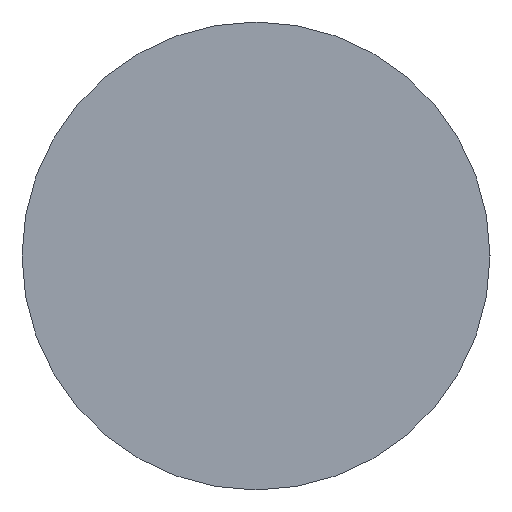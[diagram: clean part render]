
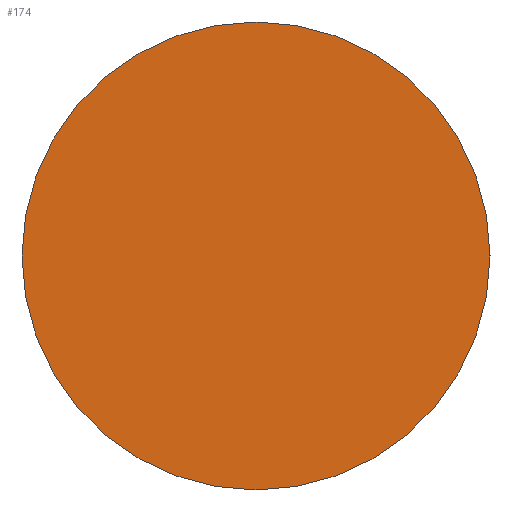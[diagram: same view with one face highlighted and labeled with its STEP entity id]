
A CAD part, left-side view. The second image highlights one B-rep face of the part: STEP entity #174.
In plain terms, the highlighted planar face has unit normal (-1, 0, 0).
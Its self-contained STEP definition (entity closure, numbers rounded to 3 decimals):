
#20 = DIRECTION ( 'NONE',  ( 0., 1., 0. ) ) ;
#27 = DIRECTION ( 'NONE',  ( 1., 0., 0. ) ) ;
#28 = CARTESIAN_POINT ( 'NONE',  ( 0., 0., 0. ) ) ;
#50 = ORIENTED_EDGE ( 'NONE', *, *, #86, .F. ) ;
#86 = EDGE_CURVE ( 'NONE', #151, #122, #133, .T. ) ;
#92 = AXIS2_PLACEMENT_3D ( 'NONE', #210, #206, #201 ) ;
#122 = VERTEX_POINT ( 'NONE', #268 ) ;
#128 = ORIENTED_EDGE ( 'NONE', *, *, #155, .F. ) ;
#133 = CIRCLE ( 'NONE', #264, 7. ) ;
#151 = VERTEX_POINT ( 'NONE', #234 ) ;
#152 = DIRECTION ( 'NONE',  ( 0., -1., 0. ) ) ;
#155 = EDGE_CURVE ( 'NONE', #122, #151, #217, .T. ) ;
#167 = DIRECTION ( 'NONE',  ( -1., 0., 0. ) ) ;
#174 = ADVANCED_FACE ( 'NONE', ( #247 ), #214, .T. ) ;
#189 = CARTESIAN_POINT ( 'NONE',  ( 0., 0., 0. ) ) ;
#201 = DIRECTION ( 'NONE',  ( 0., 1., 0. ) ) ;
#206 = DIRECTION ( 'NONE',  ( 1., 0., 0. ) ) ;
#210 = CARTESIAN_POINT ( 'NONE',  ( 0., 0., 0. ) ) ;
#214 = PLANE ( 'NONE',  #266 ) ;
#217 = CIRCLE ( 'NONE', #92, 7. ) ;
#234 = CARTESIAN_POINT ( 'NONE',  ( 0., 7., 0. ) ) ;
#247 = FACE_OUTER_BOUND ( 'NONE', #269, .T. ) ;
#264 = AXIS2_PLACEMENT_3D ( 'NONE', #28, #27, #20 ) ;
#266 = AXIS2_PLACEMENT_3D ( 'NONE', #189, #167, #152 ) ;
#268 = CARTESIAN_POINT ( 'NONE',  ( 0., -7., 0. ) ) ;
#269 = EDGE_LOOP ( 'NONE', ( #50, #128 ) ) ;
